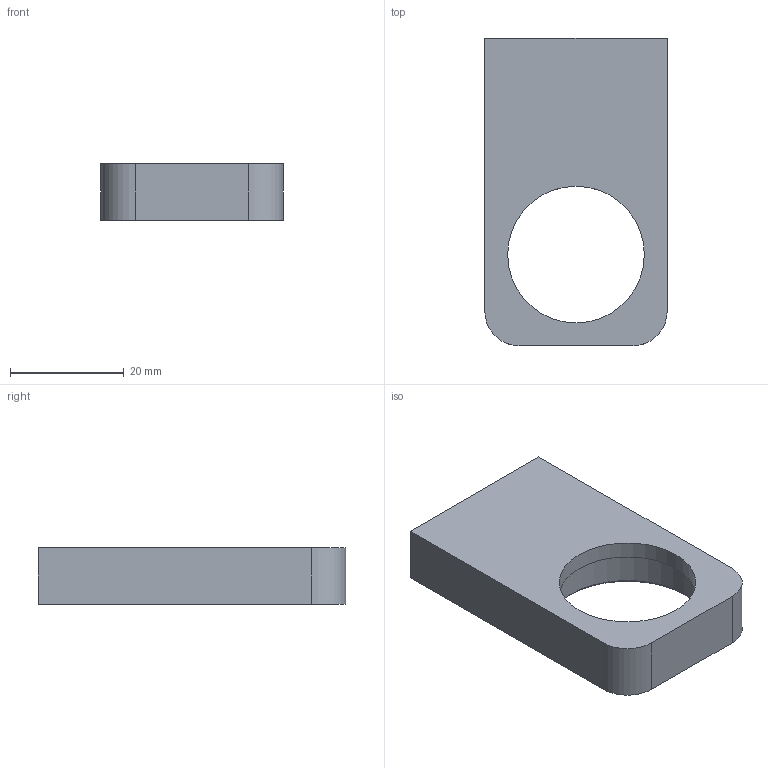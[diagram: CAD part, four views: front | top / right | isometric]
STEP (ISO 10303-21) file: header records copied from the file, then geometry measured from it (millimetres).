
FILE_DESCRIPTION(('STEP AP203'), '1');
FILE_NAME('ÒÏÏÔ1801.01.08.01.004 - Îïîðà', '', ('UNSPECIFIED'), ('UNSPECIFIED'), 'C3D Converter', 'C3D Toolkit', '');
FILE_SCHEMA(('CONFIG_CONTROL_DESIGN'));
Length unit declared in the file: millimetre
Products named in the file (1): ТППФ1801.01.08.01.004
Bounding box: 32 x 54 x 10 mm (x, y, z)
Volume: 10961.3 mm3; surface area: 5501.6 mm2
Topology: 1 solids, 1 shells, 31 faces, 70 edges, 42 vertices
Faces by surface type: cone 13, cylinder 10, plane 7, torus 1
Full cylindrical faces by diameter (mm): 2.459 x4, 4.134 x2, 24 x1, 28 x1
Entity records: 988 total; most frequent: DIRECTION 134, CARTESIAN_POINT 110, ORIENTED_EDGE 84, AXIS2_PLACEMENT_3D 60, EDGE_LOOP 56, EDGE_CURVE 42, FACE_OUTER_BOUND 38, VERTEX_POINT 36
